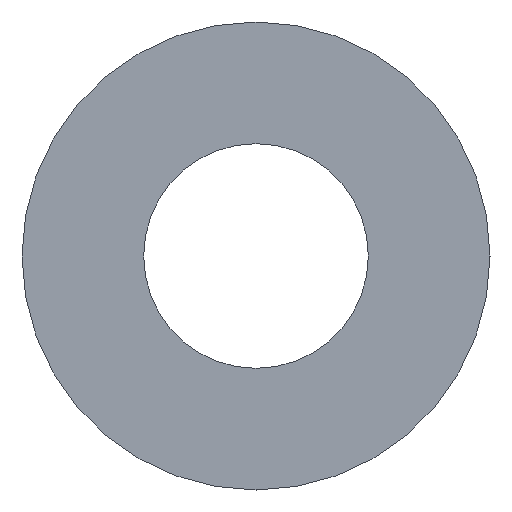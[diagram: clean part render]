
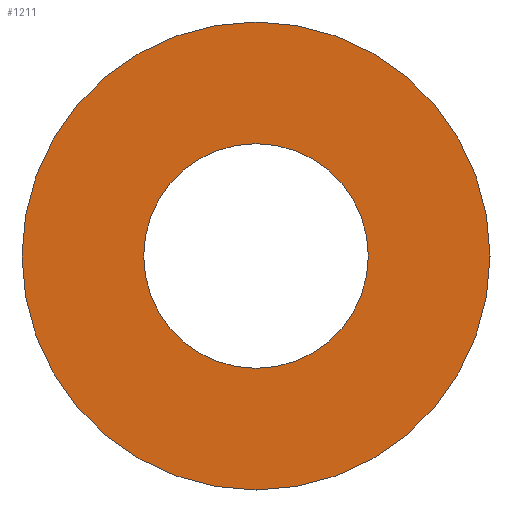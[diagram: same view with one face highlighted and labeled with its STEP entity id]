
A CAD part, front view. The second image highlights one B-rep face of the part: STEP entity #1211.
In plain terms, the highlighted planar face has unit normal (0, -1, 0).
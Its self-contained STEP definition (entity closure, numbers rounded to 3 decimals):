
#40 = DIRECTION ( 'NONE',  ( 0., 1., 0. ) ) ;
#179 = CARTESIAN_POINT ( 'NONE',  ( 0., -15.5, -12. ) ) ;
#204 = VERTEX_POINT ( 'NONE', #2436 ) ;
#252 = ORIENTED_EDGE ( 'NONE', *, *, #917, .T. ) ;
#261 = PLANE ( 'NONE',  #530 ) ;
#317 = CIRCLE ( 'NONE', #2828, 25. ) ;
#382 = AXIS2_PLACEMENT_3D ( 'NONE', #2038, #1830, #1820 ) ;
#530 = AXIS2_PLACEMENT_3D ( 'NONE', #1952, #40, #2860 ) ;
#543 = FACE_OUTER_BOUND ( 'NONE', #1956, .T. ) ;
#569 = DIRECTION ( 'NONE',  ( 0., -1., 0. ) ) ;
#917 = EDGE_CURVE ( 'NONE', #2035, #204, #2221, .T. ) ;
#989 = CIRCLE ( 'NONE', #382, 12. ) ;
#1031 = CARTESIAN_POINT ( 'NONE',  ( 0., -15.5, 0. ) ) ;
#1052 = DIRECTION ( 'NONE',  ( 0., 0., -1. ) ) ;
#1123 = CARTESIAN_POINT ( 'NONE',  ( 0., -15.5, -25. ) ) ;
#1129 = DIRECTION ( 'NONE',  ( 0., -1., 0. ) ) ;
#1188 = FACE_BOUND ( 'NONE', #2328, .T. ) ;
#1211 = ADVANCED_FACE ( 'NONE', ( #1188, #543 ), #261, .F. ) ;
#1295 = EDGE_CURVE ( 'NONE', #2841, #2101, #2643, .T. ) ;
#1612 = DIRECTION ( 'NONE',  ( 0., -1., 0. ) ) ;
#1694 = AXIS2_PLACEMENT_3D ( 'NONE', #1031, #569, #1052 ) ;
#1705 = ORIENTED_EDGE ( 'NONE', *, *, #2821, .F. ) ;
#1788 = ORIENTED_EDGE ( 'NONE', *, *, #1295, .F. ) ;
#1820 = DIRECTION ( 'NONE',  ( 0., 0., -1. ) ) ;
#1830 = DIRECTION ( 'NONE',  ( 0., -1., 0. ) ) ;
#1874 = DIRECTION ( 'NONE',  ( 0., 0., -1. ) ) ;
#1918 = ORIENTED_EDGE ( 'NONE', *, *, #2130, .T. ) ;
#1952 = CARTESIAN_POINT ( 'NONE',  ( 0., -15.5, 12. ) ) ;
#1956 = EDGE_LOOP ( 'NONE', ( #252, #1918 ) ) ;
#2035 = VERTEX_POINT ( 'NONE', #1123 ) ;
#2038 = CARTESIAN_POINT ( 'NONE',  ( 0., -15.5, 0. ) ) ;
#2101 = VERTEX_POINT ( 'NONE', #179 ) ;
#2130 = EDGE_CURVE ( 'NONE', #204, #2035, #317, .T. ) ;
#2221 = CIRCLE ( 'NONE', #2274, 25. ) ;
#2274 = AXIS2_PLACEMENT_3D ( 'NONE', #3002, #1129, #2980 ) ;
#2326 = CARTESIAN_POINT ( 'NONE',  ( 0., -15.5, 0. ) ) ;
#2328 = EDGE_LOOP ( 'NONE', ( #1705, #1788 ) ) ;
#2436 = CARTESIAN_POINT ( 'NONE',  ( 0., -15.5, 25. ) ) ;
#2643 = CIRCLE ( 'NONE', #1694, 12. ) ;
#2720 = CARTESIAN_POINT ( 'NONE',  ( 0., -15.5, 12. ) ) ;
#2821 = EDGE_CURVE ( 'NONE', #2101, #2841, #989, .T. ) ;
#2828 = AXIS2_PLACEMENT_3D ( 'NONE', #2326, #1612, #1874 ) ;
#2841 = VERTEX_POINT ( 'NONE', #2720 ) ;
#2860 = DIRECTION ( 'NONE',  ( 0., 0., 1. ) ) ;
#2980 = DIRECTION ( 'NONE',  ( 0., 0., -1. ) ) ;
#3002 = CARTESIAN_POINT ( 'NONE',  ( 0., -15.5, 0. ) ) ;
